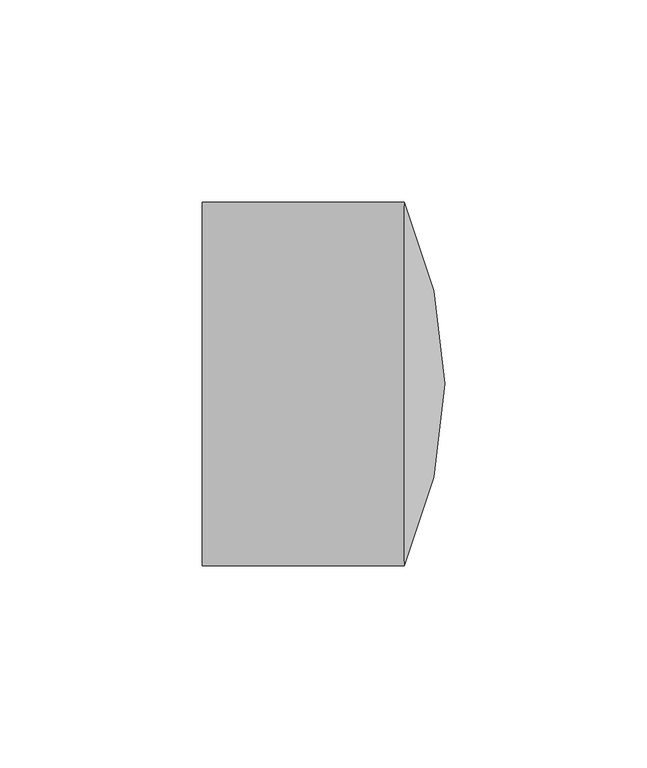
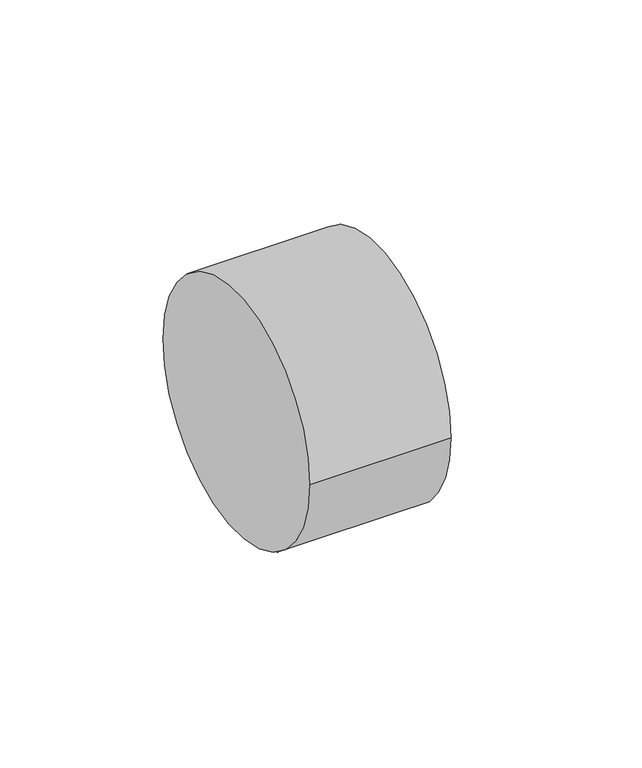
"""IFC4 building model written with IfcOpenShell, lengths in millimetres: pipe fitting geometry, 01051012 : Tapones H."""

import ifcopenshell
import ifcopenshell.guid

model = None  # the IFC model being written
_history = None  # IfcOwnerHistory: only IFC2X3 demands one
_inside = {}  # id of a spatial element -> (the spatial element, [elements in it])
_under = {}  # id of a project, library or spatial element -> (it, [spatial elements below it])
_declared = {}  # id of a project -> (the project, [libraries it declares])
_typed = {}  # id of a type object -> (the type object, [elements of that type])
_made_of = {}  # id of a material, layer set ... -> (it, [elements and type objects made of it])


def new_model(schema):
    """Start an empty IFC model of exactly this schema.

    Asked for "IFC4X3", IfcOpenShell would pick the latest addendum, in which some entities
    have other attributes; the version numbers below select the first issue.
    IFC2X3 requires an IfcOwnerHistory on every rooted entity: one is made here for all.
    """
    global model, _history
    if schema == "IFC4X3":
        model = ifcopenshell.file(schema_version=(4, 3, 0, 0))
    else:
        model = ifcopenshell.file(schema=schema)
    _inside.clear()
    _under.clear()
    _declared.clear()
    _typed.clear()
    _made_of.clear()
    _history = None
    if model.schema == "IFC2X3":
        org = make("IfcOrganization", Name="unknown")
        user = make(
            "IfcPersonAndOrganization",
            ThePerson=make("IfcPerson", FamilyName="unknown"),
            TheOrganization=org,
        )
        app = make(
            "IfcApplication",
            ApplicationDeveloper=org,
            Version="unknown",
            ApplicationFullName="unknown",
            ApplicationIdentifier="unknown",
        )
        _history = make(
            "IfcOwnerHistory",
            OwningUser=user,
            OwningApplication=app,
            ChangeAction="ADDED",
            CreationDate=0,
        )
    return model


def make(cls, **values):
    """One entity of the class cls with the attributes given. An attribute that is None is left unset."""
    return model.create_entity(
        cls, **{name: value for name, value in values.items() if value is not None}
    )


def rooted(cls, **values):
    """An entity with a GlobalId (a new one), such as an element, a storey or a relation."""
    return make(cls, GlobalId=ifcopenshell.guid.new(), OwnerHistory=_history, **values)


def si_unit(unit_type, name, prefix=None):
    """IfcSIUnit, for example si_unit("LENGTHUNIT", "METRE", prefix="MILLI")."""
    return make("IfcSIUnit", UnitType=unit_type, Prefix=prefix, Name=name)


def assignment(units):
    """IfcUnitAssignment: the units of a project."""
    return None if units is None else make("IfcUnitAssignment", Units=units)


def point(xyz):
    """IfcCartesianPoint."""
    return None if xyz is None else make("IfcCartesianPoint", Coordinates=xyz)


def direction(xyz):
    """IfcDirection."""
    return None if xyz is None else make("IfcDirection", DirectionRatios=xyz)


def frame(location, z_axis=None, x_axis=None):
    """IfcAxis2Placement3D, a coordinate frame: its origin and axes. An axis left out is left unset."""
    return make(
        "IfcAxis2Placement3D",
        Location=point(location),
        Axis=direction(z_axis),
        RefDirection=direction(x_axis),
    )


def origin():
    """The frame at (0, 0, 0) with its axes left unset."""
    return frame((0.0, 0.0, 0.0))


def place(relative_to, where):
    """IfcLocalPlacement: puts the frame where relative to a parent placement (None: the world)."""
    return make(
        "IfcLocalPlacement", PlacementRelTo=relative_to, RelativePlacement=where
    )


def context(
    kind, dimensions, precision=None, world=None, true_north=None, identifier=None
):
    """IfcGeometricRepresentationContext, for example the 3D "Model" context."""
    return make(
        "IfcGeometricRepresentationContext",
        ContextIdentifier=identifier,
        ContextType=kind,
        CoordinateSpaceDimension=dimensions,
        Precision=precision,
        WorldCoordinateSystem=world,
        TrueNorth=true_north,
    )


def project(units=None, contexts=None):
    """IfcProject with its units and contexts."""
    return rooted(
        "IfcProject",
        Name="project",
        RepresentationContexts=contexts,
        UnitsInContext=assignment(units),
    )


def spatial(cls, under=None, at=None, **own):
    """A site, building, storey or space (cls), placed at a placement, below another one or the project."""
    s = rooted(cls, ObjectPlacement=at, **own)
    if under is not None:
        _under.setdefault(under.id(), (under, []))[1].append(s)
    return s


def circle_curve(where, radius):
    """IfcCircle in the frame where."""
    return make("IfcCircle", Position=where, Radius=radius)


def ellipse_curve(where, semi_axis1, semi_axis2):
    """IfcEllipse in the frame where."""
    return make(
        "IfcEllipse", Position=where, SemiAxis1=semi_axis1, SemiAxis2=semi_axis2
    )


def trimmed(basis, trim1, trim2, sense, master):
    """IfcTrimmedCurve: the piece of a basis curve between two trims."""
    return make(
        "IfcTrimmedCurve",
        BasisCurve=basis,
        Trim1=trim1,
        Trim2=trim2,
        SenseAgreement=sense,
        MasterRepresentation=master,
    )


def shape(context_of_items, identifier, shape_type, items):
    """IfcShapeRepresentation: the items that make up one representation, for example the "Body"."""
    return make(
        "IfcShapeRepresentation",
        ContextOfItems=context_of_items,
        RepresentationIdentifier=identifier,
        RepresentationType=shape_type,
        Items=items,
    )


def source(mapping_origin, context_of_items, identifier, shape_type, items):
    """IfcRepresentationMap: a shape defined once, which mapped items show again and again."""
    return make(
        "IfcRepresentationMap",
        MappingOrigin=mapping_origin,
        MappedRepresentation=shape(context_of_items, identifier, shape_type, items),
    )


def transform(
    local_origin,
    x_axis=None,
    y_axis=None,
    z_axis=None,
    scale=None,
    scale2=None,
    scale3=None,
    uniform=True,
):
    """IfcCartesianTransformationOperator3D, or its non-uniform kind. x_axis, y_axis, z_axis: its Axis1, 2, 3."""
    if uniform:
        return make(
            "IfcCartesianTransformationOperator3D",
            Axis1=direction(x_axis),
            Axis2=direction(y_axis),
            LocalOrigin=point(local_origin),
            Scale=scale,
            Axis3=direction(z_axis),
        )
    return make(
        "IfcCartesianTransformationOperator3DnonUniform",
        Axis1=direction(x_axis),
        Axis2=direction(y_axis),
        LocalOrigin=point(local_origin),
        Scale=scale,
        Axis3=direction(z_axis),
        Scale2=scale2,
        Scale3=scale3,
    )


def mapped(mapping_source, mapping_target):
    """IfcMappedItem: shows the shape of a source again, moved by a transform."""
    return make(
        "IfcMappedItem", MappingSource=mapping_source, MappingTarget=mapping_target
    )


def made_of(thing, what):
    """Note that an element or type object is made of a material, layer set ...; save() writes the relation."""
    if what is not None:
        _made_of.setdefault(what.id(), (what, []))[1].append(thing)
    return thing


def element(
    cls,
    number,
    at=None,
    inside=None,
    cuts=None,
    type_object=None,
    material=None,
    context=None,
    identifier="Body",
    shape_type=None,
    held_by="IfcProductDefinitionShape",
    body=None,
    shapes=None,
    **own,
):
    """One element of the class cls, such as IfcWall. Its Tag is "e" and its number.

    at: its placement. inside: the storey or other place that contains it. cuts: it is an
    opening in that element (IfcRelVoidsElement). A single representation is given by context,
    identifier, shape_type and body (its items); several are given by shapes. held_by: the class
    of the entity that holds the representations. save() writes the other relations.
    """
    e = rooted(cls, Tag="e%d" % number, ObjectPlacement=at, **own)
    if body is not None:
        shapes = [shape(context, identifier, shape_type, body)]
    if shapes is not None:
        e.Representation = make(held_by, Representations=shapes)
    if inside is not None:
        _inside.setdefault(inside.id(), (inside, []))[1].append(e)
    if cuts is not None:
        rooted(
            "IfcRelVoidsElement", RelatingBuildingElement=cuts, RelatedOpeningElement=e
        )
    if type_object is not None:
        _typed.setdefault(type_object.id(), (type_object, []))[1].append(e)
    return made_of(e, material)


def aggregate(whole, parts):
    """IfcRelAggregates: a whole, such as a stair, and the parts it consists of."""
    return rooted("IfcRelAggregates", RelatingObject=whole, RelatedObjects=parts)


def save(model, path):
    """Write the relations noted so far, then the file.

    IfcRelAggregates (storeys below a building ...), IfcRelContainedInSpatialStructure (elements
    in a storey), IfcRelDefinesByType, IfcRelAssociatesMaterial and IfcRelDeclares: one each for
    every whole, place, type object, material and project.
    """
    for whole, parts in _under.values():
        aggregate(whole, parts)
    for where, things in _inside.values():
        rooted(
            "IfcRelContainedInSpatialStructure",
            RelatedElements=things,
            RelatingStructure=where,
        )
    for kind, things in _typed.values():
        rooted("IfcRelDefinesByType", RelatedObjects=things, RelatingType=kind)
    for what, things in _made_of.values():
        rooted("IfcRelAssociatesMaterial", RelatedObjects=things, RelatingMaterial=what)
    for by, libraries in _declared.values():
        rooted("IfcRelDeclares", RelatingContext=by, RelatedDefinitions=libraries)
    model.write(path)


def plane_surface(at):
    """IfcPlane: the flat surface through the origin of the frame at, square to its z axis."""
    return make("IfcPlane", Position=at)


def cylinder_surface(at, radius):
    """IfcCylindricalSurface: all points at the distance radius from the z axis of the frame at."""
    return make("IfcCylindricalSurface", Position=at, Radius=radius)


def revolved_surface(curve, axis_point, axis_direction):
    """IfcSurfaceOfRevolution: the curve turned about the line through axis_point along axis_direction."""
    return make(
        "IfcSurfaceOfRevolution",
        SweptCurve=make("IfcArbitraryOpenProfileDef", ProfileType="CURVE", Curve=curve),
        AxisPosition=make("IfcAxis1Placement", Location=point(axis_point), Axis=direction(axis_direction)),
    )


def advanced_brep(points, edges, surfaces, faces):
    """IfcAdvancedBrep: a solid bounded by faces that lie on surfaces and meet in shared edges.

    An edge is (start, end): straight between two places in points (the first is 0);
    or (start, end, curve); or (start, end, curve, False) where it runs against its curve.
    A face is (place in surfaces, loops), or (place, loops, False) where it looks against
    its surface's normal. A loop lists edges by number (the first is 1), with a minus sign
    where the edge is run from its end to its start. The first loop is the outer one.
    """
    corners = [point(p) for p in points]
    vertices = [make("IfcVertexPoint", VertexGeometry=c) for c in corners]
    made = []
    for start, end, *more in edges:
        made.append(
            make(
                "IfcEdgeCurve",
                EdgeStart=vertices[start],
                EdgeEnd=vertices[end],
                EdgeGeometry=more[0] if more else make("IfcPolyline", Points=[corners[start], corners[end]]),
                SameSense=more[1] if len(more) > 1 else True,
            )
        )
    hull = []
    for where, loops, *sense in faces:
        bounds = []
        for j, loop in enumerate(loops):
            ring = [make("IfcOrientedEdge", EdgeElement=made[abs(k) - 1], Orientation=k > 0) for k in loop]
            bounds.append(
                make(
                    "IfcFaceOuterBound" if j == 0 else "IfcFaceBound",
                    Bound=make("IfcEdgeLoop", EdgeList=ring),
                    Orientation=True,
                )
            )
        hull.append(make("IfcAdvancedFace", Bounds=bounds, FaceSurface=surfaces[where], SameSense=sense[0] if sense else True))
    return make("IfcAdvancedBrep", Outer=make("IfcClosedShell", CfsFaces=hull))


def pipe_fitting_98939dea(model_context):
    return source(origin(), model_context, "Body", "AdvancedBrep", [
        advanced_brep(
        [(50.0, 45.0, 0.0), (60.0, 0.0, 0.0), (50.0, -45.0, 0.0), (0.0, -45.0, 0.0), (0.0, 45.0, 0.0)],
        [
            (0, 1, circle_curve(frame((-52.2945048, -1.3432233, 0.0), z_axis=(0.0, 0.0, -1.0), x_axis=(1.0, 0.0, 0.0)), 112.3025381)),
            (1, 2, circle_curve(frame((-52.2945048, 1.3432233, 0.0), z_axis=(0.0, 0.0, -1.0), x_axis=(1.0, 0.0, 0.0)), 112.3025381)),
            (2, 0, circle_curve(frame((50.0, 0.0, 0.0), z_axis=(1.0, 0.0, 0.0), x_axis=(0.0, 1.0, 0.0)), 45.0)),
            (0, 2, circle_curve(frame((50.0, 0.0, 0.0), z_axis=(1.0, 0.0, 0.0), x_axis=(0.0, 1.0, 0.0)), 45.0)),
            (3, 4, circle_curve(frame((0.0, 0.0, 0.0), z_axis=(-1.0, 0.0, 0.0), x_axis=(0.0, 1.0, 0.0)), 45.0)),
            (4, 3, circle_curve(frame((0.0, 0.0, 0.0), z_axis=(-1.0, 0.0, 0.0), x_axis=(0.0, 1.0, 0.0)), 45.0)),
            (3, 2),
            (0, 4),
        ],
        [
            revolved_surface(trimmed(ellipse_curve(frame((-52.2945048, -1.3432233, 0.0), z_axis=(0.0, 0.0, 1.0), x_axis=(1.0, 0.0, 0.0)), 112.3025381, 112.3025381), [point((60.0, 0.0, 0.0))], [point((50.0, 45.0, 0.0))], True, "CARTESIAN"), (50.0, 0.0, 0.0), (-1.0, 0.0, 0.0)),
            plane_surface(frame((0.0, 0.0, 0.0), z_axis=(-1.0, 0.0, 0.0), x_axis=(0.0, 0.0, 1.0))),
            cylinder_surface(frame((0.0, 0.0, 0.0), z_axis=(-1.0, 0.0, 0.0), x_axis=(0.0, 1.0, 0.0)), 45.0),
        ],
        [
            (0, [[1, 2, 3]]),
            (0, [[-1, 4, -2]]),
            (1, [[5, 6]]),
            (2, [[-5, 7, -4, 8]]),
            (2, [[-6, -8, -3, -7]]),
        ],
    ),
    ])


if __name__ == "__main__":
    model = new_model("IFC4")
    model_context = context("Model", 3, world=origin())
    ifc_project = project(units=[si_unit("LENGTHUNIT", "METRE", prefix="MILLI")], contexts=[model_context])
    site = spatial("IfcSite", under=ifc_project)
    building = spatial("IfcBuilding", under=site)
    placement = place(None, origin())
    pipe_fitting_shape = pipe_fitting_98939dea(model_context)
    element("IfcPipeFitting", 1, ObjectType="01051012 : Tapones H", at=placement, inside=building, context=model_context, shape_type="MappedRepresentation", body=[
        mapped(pipe_fitting_shape, transform((0.0, 0.0, 0.0), x_axis=(1.0, 0.0, 0.0), y_axis=(0.0, 1.0, 0.0), z_axis=(0.0, 0.0, 1.0))),
    ])
    save(model, "model.ifc")
